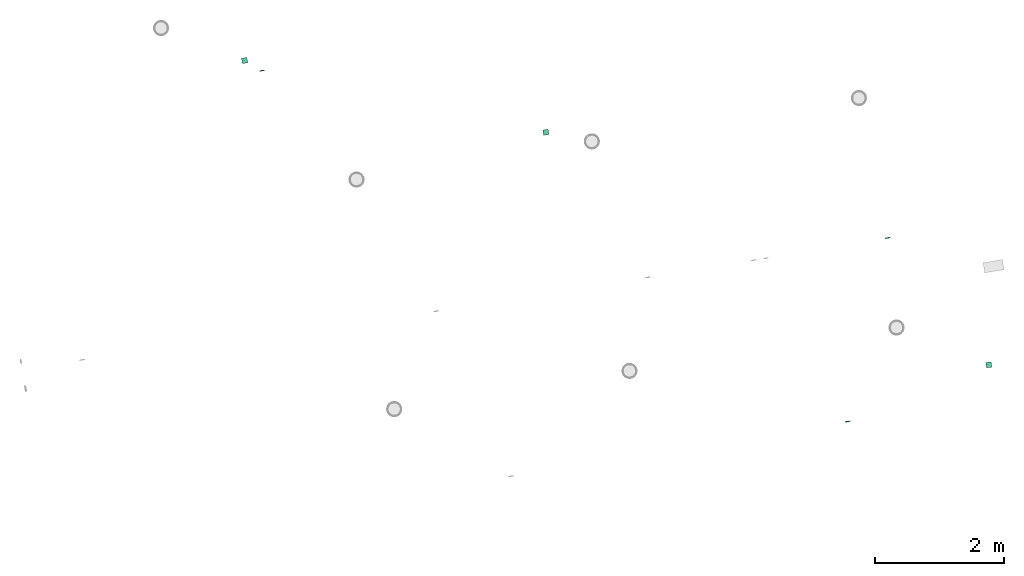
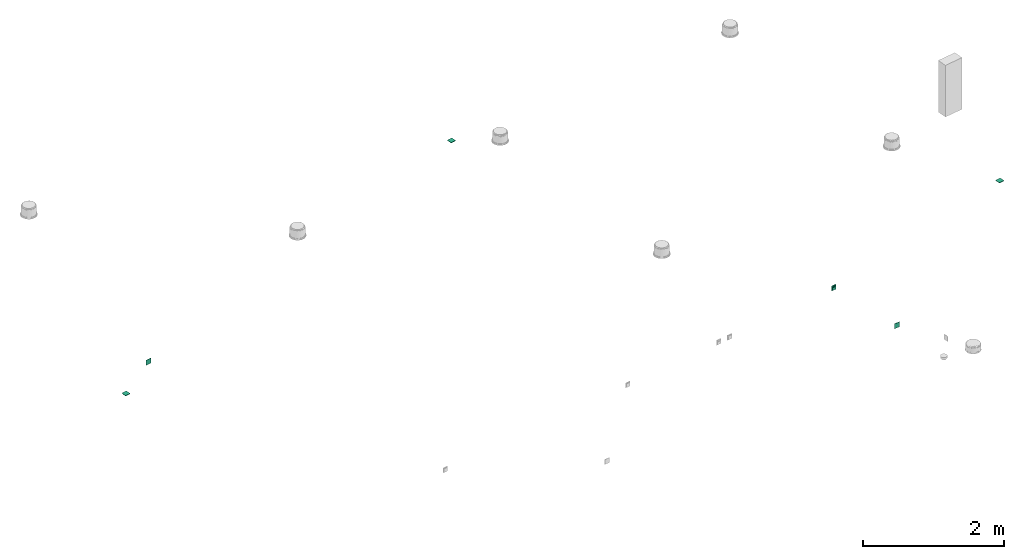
# One storey, part 2 of 4: 6 flow terminals.
"""IFC2X3 building model written with IfcOpenShell, lengths in millimetres."""

from ifc_helpers import new_model, entity, si_unit, converted_unit, derived_unit, direction, frame, frame_2d, origin, origin_with_axes, origin_2d_with_axis, place, context, subcontext, project, spatial, polyline, rectangle, outline, extrude, source, transform, mapped, material, type_object, element, save


model = new_model("IFC2X3")

# Units and contexts
model_context = context("Model", 3, precision=0.01, world=origin(), true_north=direction((6.12323399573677e-17, 1.0)))
plan_context = context("Plan", 3, precision=1e-05, world=origin_with_axes())
body_context = subcontext(model_context, "Body", "Model", "MODEL_VIEW")
ifc_project = project(units=[converted_unit("PLANEANGLEUNIT", "DEGREE", entity("IfcPositiveLengthMeasure", 0.0174532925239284), si_unit("PLANEANGLEUNIT", "RADIAN"), dimensions=[0, 0, 0, 0, 0, 0, 0]), si_unit("AREAUNIT", "SQUARE_METRE"), si_unit("LENGTHUNIT", "METRE", prefix="MILLI"), si_unit("MASSUNIT", "GRAM", prefix="KILO"), si_unit("POWERUNIT", "WATT"), si_unit("PRESSUREUNIT", "PASCAL", prefix="KILO"), si_unit("FORCEUNIT", "NEWTON", prefix="KILO"), si_unit("ELECTRICVOLTAGEUNIT", "VOLT"), si_unit("ELECTRICCURRENTUNIT", "AMPERE"), si_unit("THERMODYNAMICTEMPERATUREUNIT", "DEGREE_CELSIUS"), si_unit("TIMEUNIT", "SECOND"), si_unit("VOLUMEUNIT", "CUBIC_METRE"), derived_unit("LINEARVELOCITYUNIT", [(si_unit("LENGTHUNIT", "METRE"), 1), (si_unit("TIMEUNIT", "SECOND"), -1)]), derived_unit("VOLUMETRICFLOWRATEUNIT", [(si_unit("VOLUMEUNIT", "CUBIC_METRE"), 1), (si_unit("TIMEUNIT", "SECOND"), -1)]), derived_unit("THERMALTRANSMITTANCEUNIT", [(si_unit("POWERUNIT", "WATT"), 1), (si_unit("THERMODYNAMICTEMPERATUREUNIT", "KELVIN"), -1), (si_unit("AREAUNIT", "SQUARE_METRE"), -1)]), derived_unit("SOUNDPRESSUREUNIT", [(si_unit("PRESSUREUNIT", "PASCAL"), 1)])], contexts=[model_context, plan_context])

# Site, building, storey
site_placement = place(None, frame((-743.430438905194, 3176.84670324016, 0.0), z_axis=(0.0, 0.0, 1.0), x_axis=(-0.160236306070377, 0.987078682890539, 0.0)))
site = spatial("IfcSite", under=ifc_project, at=site_placement, Name="Default", CompositionType="ELEMENT")
building_placement = place(site_placement, origin_with_axes())
building = spatial("IfcBuilding", under=site, at=building_placement, CompositionType="ELEMENT")
storey_placement = place(building_placement, frame((0.0, 0.0, 50999.9999999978), z_axis=(0.0, 0.0, 1.0), x_axis=(1.0, 0.0, 0.0)))
storey = spatial("IfcBuildingStorey", under=building, at=storey_placement, Name="Nivå D", CompositionType="ELEMENT", Elevation=50999.9999999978)

# Flow terminals
ifc_material = material(Name="<Unnamed>")
electric_appliance_type_1 = type_object("IfcElectricApplianceType", Name="Tele-Data gen uttak dobbel:Tele-Data gen. uttak dobbel", PredefinedType="NOTDEFINED", material=ifc_material)
shared_shape_1 = source(origin(), body_context, "Body", "SweptSolid", [
    extrude(outline(polyline([(-32.5, -7.07106781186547), (32.5, -7.07106781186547), (42.5, 7.07106781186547), (-42.5, 7.07106781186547), (-32.5, -7.07106781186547)])), frame((0.0, 9.92928932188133, 37.4292893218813), z_axis=(0.0, 0.707106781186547, 0.707106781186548), x_axis=(-1.0, 0.0, 0.0)), (0.0, 0.0, 1.0), 0.200000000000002),
    extrude(outline(polyline([(-32.5, -7.07106781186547), (32.5, -7.07106781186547), (42.5, 7.07106781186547), (-42.5, 7.07106781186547), (-32.5, -7.07106781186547)])), frame((0.0, 10.0707106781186, -37.5707106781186), z_axis=(0.0, -0.707106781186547, 0.707106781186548), x_axis=(-1.0, 0.0, 0.0)), (0.0, 0.0, 1.0), 0.200000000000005),
    extrude(outline(polyline([(-30.3108891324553, -30.6186217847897), (-12.9903810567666, -30.6186217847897), (24.5373864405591, 22.4536559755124), (18.7638837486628, 38.7835875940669), (-30.3108891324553, -30.6186217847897)])), frame((-37.5707106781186, 10.0707106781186, 0.0), z_axis=(0.707106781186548, -0.707106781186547, 0.0), x_axis=(0.577350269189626, 0.577350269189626, 0.577350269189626)), (0.0, 0.0, 1.0), 0.199999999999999),
    extrude(outline(polyline([(-30.3108891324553, -30.6186217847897), (-12.9903810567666, -30.6186217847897), (24.5373864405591, 22.4536559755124), (18.7638837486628, 38.783587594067), (-30.3108891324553, -30.6186217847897)])), frame((37.4292893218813, 9.92928932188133, 0.0), z_axis=(0.707106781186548, 0.707106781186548, 0.0), x_axis=(-0.577350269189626, 0.577350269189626, 0.577350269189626)), (0.0, 0.0, 1.0), 0.199999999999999),
    extrude(rectangle(XDim=0.199999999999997, YDim=4.99999999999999, at=frame_2d((-4.2257863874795e-15, 0.0), x_axis=(1.0, 0.0))), frame((42.5, 2.5, -42.5)), (0.0, 0.0, 1.0), 84.9999999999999),
    extrude(rectangle(XDim=4.99999999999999, YDim=84.9999999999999, at=frame_2d((6.66133814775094e-16, 0.0), x_axis=(1.0, 0.0))), frame((0.0, 2.5, -42.6), z_axis=(0.0, 0.0, 1.0), x_axis=(0.0, -1.0, 0.0)), (0.0, 0.0, 1.0), 0.199999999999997),
    extrude(rectangle(XDim=0.199999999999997, YDim=4.99999999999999, at=frame_2d((-4.2257863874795e-15, 0.0), x_axis=(1.0, 0.0))), frame((-42.5, 2.5, -42.5)), (0.0, 0.0, 1.0), 84.9999999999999),
    extrude(rectangle(XDim=0.2, YDim=84.9999999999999, at=origin_2d_with_axis()), frame((0.0, 0.0, -42.5), z_axis=(0.0, 0.0, 1.0), x_axis=(0.0, 1.0, 0.0)), (0.0, 0.0, 1.0), 84.9999999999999),
    extrude(rectangle(XDim=4.99999999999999, YDim=84.9999999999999, at=frame_2d((6.66133814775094e-16, 0.0), x_axis=(1.0, 0.0))), frame((0.0, 2.5, 42.4), z_axis=(0.0, 0.0, 1.0), x_axis=(0.0, -1.0, 0.0)), (0.0, 0.0, 1.0), 0.199999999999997),
    extrude(rectangle(XDim=0.200000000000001, YDim=64.9999999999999, at=frame_2d((2.11636264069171e-15, 0.0), x_axis=(1.0, 0.0))), frame((0.0, 15.0, -32.5), z_axis=(0.0, 0.0, 1.0), x_axis=(0.0, 1.0, 0.0)), (0.0, 0.0, 1.0), 64.9999999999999),
    extrude(rectangle(XDim=0.199999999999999, YDim=15.0, at=frame_2d((1.06165076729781e-15, 0.0), x_axis=(1.0, 0.0))), frame((-10.0, 17.0099999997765, 0.500000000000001), z_axis=(0.0, 0.0, 1.0), x_axis=(0.0, 1.0, 0.0)), (0.0, 0.0, 1.0), 15.0),
    extrude(rectangle(XDim=0.199999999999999, YDim=15.0, at=frame_2d((1.06165076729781e-15, 0.0), x_axis=(1.0, 0.0))), frame((10.0, 17.0099999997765, 0.500000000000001), z_axis=(0.0, 0.0, 1.0), x_axis=(0.0, 1.0, 0.0)), (0.0, 0.0, 1.0), 15.0),
    extrude(rectangle(XDim=64.9999999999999, YDim=2.0, at=origin_2d_with_axis()), frame((0.0, 16.0, 27.5)), (0.0, 0.0, 1.0), 4.99999999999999),
    extrude(rectangle(XDim=64.9999999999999, YDim=2.0, at=origin_2d_with_axis()), frame((0.0, 16.0, -32.5)), (0.0, 0.0, 1.0), 50.0),
])
for number, where, z_axis, x_axis, name in (
    (1, (771582.619644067, -602832.480498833, 200.0), (0.0, 0.0, 1.0), (0.0, 1.0, 0.0), "Tele-Data gen uttak dobbel:Tele-Data gen. uttak dobbel"),
    (2, (775685.119644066, -593663.896720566, 750.0), (0.0, 0.0, 1.0), (0.0, -1.0, 0.0), "Tele-Data gen uttak dobbel:Tele-Data gen. uttak dobbel"),
    (3, (768852.619644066, -601762.480498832, 1500.0), (0.0, 0.0, 1.0), (0.0, -1.0, 0.0), "Tele-Data gen uttak dobbel:Tele-Data gen. uttak dobbel"),
):
    element("IfcFlowTerminal", number, at=place(storey_placement, frame(where, z_axis=z_axis, x_axis=x_axis)), inside=storey, type_object=electric_appliance_type_1, material=ifc_material, Name=name, ObjectType="Tele-Data gen uttak dobbel:Tele-Data gen. uttak dobbel", context=body_context, shape_type="MappedRepresentation", body=[
        mapped(shared_shape_1, transform((0.0, 0.0, 0.0), scale=1.0)),
    ])
electric_appliance_type_2 = type_object("IfcElectricApplianceType", Name="Tele-Data gen uttak dobbel Tak_U boks:Data_uttak_dobbel Tak_U boks", PredefinedType="NOTDEFINED", material=ifc_material)
shared_shape_2 = source(origin(), body_context, "Body", "SweptSolid", [
    extrude(outline(polyline([(-32.5, -7.07106781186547), (32.5, -7.07106781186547), (42.5, 7.07106781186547), (-42.5, 7.07106781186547), (-32.5, -7.07106781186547)])), frame((0.0, 37.3397713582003, -9.99008829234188), z_axis=(0.0, 0.707846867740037, -0.706365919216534), x_axis=(-1.0, 0.0, 0.0)), (0.0, 0.0, 1.0), 0.200000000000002),
    extrude(outline(polyline([(-32.5, -7.07106781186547), (32.5, -7.07106781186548), (42.5, 7.07106781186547), (-42.5, 7.07106781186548), (-32.5, -7.07106781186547)])), frame((0.0, -37.6600394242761, -10.2100487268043), z_axis=(0.0, 0.706365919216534, 0.707846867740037), x_axis=(-1.0, 0.0, 0.0)), (0.0, 0.0, 1.0), 0.199999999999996),
    extrude(outline(polyline([(-30.3108891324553, -30.6186217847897), (-12.9903810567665, -30.6186217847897), (24.537386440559, 22.4536559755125), (18.7638837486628, 38.783587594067), (-30.3108891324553, -30.6186217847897)])), frame((-37.5707106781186, -0.0893493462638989, -10.1707051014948), z_axis=(0.707106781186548, -0.000740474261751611, 0.707106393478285), x_axis=(0.577350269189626, 0.57795454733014, -0.576745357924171)), (0.0, 0.0, 1.0), 0.199999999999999),
    extrude(outline(polyline([(-42.5, -7.07106781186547), (42.5, -7.07106781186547), (32.5, 7.07106781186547), (-32.5, 7.07106781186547), (-42.5, -7.07106781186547)])), frame((37.5707106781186, -0.089349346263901, -10.1707051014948), z_axis=(-0.707106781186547, -0.000740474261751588, 0.707106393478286), x_axis=(0.0, 0.999999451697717, 0.0010471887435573)), (0.0, 0.0, 1.0), 0.200000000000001),
    extrude(rectangle(XDim=84.9999999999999, YDim=0.199999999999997, at=frame_2d((4.2257863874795e-15, 0.0), x_axis=(0.0, 1.0))), frame((42.5, -0.0946593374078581, -5.09999720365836), z_axis=(0.0, -0.0010471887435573, 0.999999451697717), x_axis=(1.0, 0.0, 0.0)), (0.0, 0.0, 1.0), 4.99999999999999),
    extrude(rectangle(XDim=0.199999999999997, YDim=84.9999999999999, at=origin_2d_with_axis()), frame((0.0, -42.5946360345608, -5.14450272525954), z_axis=(0.0, -0.00104718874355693, 0.999999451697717), x_axis=(0.0, 0.999999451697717, 0.00104718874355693)), (0.0, 0.0, 1.0), 5.0),
    extrude(rectangle(XDim=84.9999999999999, YDim=0.199999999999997, at=frame_2d((4.2257863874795e-15, 0.0), x_axis=(0.0, 1.0))), frame((-42.5, -0.0946593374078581, -5.09999720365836), z_axis=(0.0, -0.0010471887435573, 0.999999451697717), x_axis=(1.0, 0.0, 0.0)), (0.0, 0.0, 1.0), 4.99999999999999),
    extrude(rectangle(XDim=84.9999999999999, YDim=84.9999999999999, at=origin_2d_with_axis()), frame((0.0, -0.0997905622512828, -0.199999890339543), z_axis=(0.0, -0.0010471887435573, 0.999999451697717), x_axis=(0.0, 0.999999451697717, 0.0010471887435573)), (0.0, 0.0, 1.0), 0.2),
    extrude(rectangle(XDim=0.199999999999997, YDim=84.9999999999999, at=origin_2d_with_axis()), frame((0.0, 42.4053173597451, -5.05549168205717), z_axis=(0.0, -0.00104718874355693, 0.999999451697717), x_axis=(0.0, 0.999999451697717, 0.00104718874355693)), (0.0, 0.0, 1.0), 4.99999999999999),
    extrude(rectangle(XDim=65.0, YDim=64.9999999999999, at=frame_2d((-7.105427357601e-15, -3.5527136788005e-15), x_axis=(1.0, 0.0))), frame((0.0, -0.0840827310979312, -15.1999916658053), z_axis=(0.0, -0.00104718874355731, 0.999999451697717), x_axis=(0.0, 0.999999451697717, 0.00104718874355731)), (0.0, 0.0, 1.0), 0.200000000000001),
    extrude(rectangle(XDim=15.0, YDim=15.0, at=origin_2d_with_axis()), frame((-10.0, 7.91801773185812, -17.2016130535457), z_axis=(0.0, -0.00104718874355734, 0.999999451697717), x_axis=(0.0, 0.999999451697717, 0.00104718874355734)), (0.0, 0.0, 1.0), 0.200000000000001),
    extrude(rectangle(XDim=15.0, YDim=15.0, at=origin_2d_with_axis()), frame((10.0, 7.91801773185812, -17.2016130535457), z_axis=(0.0, -0.00104718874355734, 0.999999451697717), x_axis=(0.0, 0.999999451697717, 0.00104718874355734)), (0.0, 0.0, 1.0), 0.200000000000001),
    extrude(rectangle(XDim=4.99999999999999, YDim=65.0, at=frame_2d((2.22044604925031e-15, 0.0), x_axis=(1.0, 0.0))), frame((0.0, 29.9178904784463, -17.0685749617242), z_axis=(0.0, -0.00104718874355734, 0.999999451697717), x_axis=(0.0, -0.999999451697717, -0.00104718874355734)), (0.0, 0.0, 1.0), 2.0),
    extrude(rectangle(XDim=50.0, YDim=65.0, at=origin_2d_with_axis()), frame((0.0, -7.58208896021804, -17.1078445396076), z_axis=(0.0, -0.0010471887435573, 0.999999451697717), x_axis=(0.0, -0.999999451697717, -0.0010471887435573)), (0.0, 0.0, 1.0), 2.0),
])
flow_terminal_1_placement = place(storey_placement, frame((774042.955881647, -597859.158393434, 3610.0000000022), z_axis=(0.0, 0.0, 1.0), x_axis=(0.0, 1.0, 0.0)))
element("IfcFlowTerminal", 4, at=flow_terminal_1_placement, inside=storey, type_object=electric_appliance_type_2, material=ifc_material, Name="Tele-Data gen uttak dobbel Tak_U boks:Data_uttak_dobbel Tak_U boks", ObjectType="Tele-Data gen uttak dobbel Tak_U boks:Data_uttak_dobbel Tak_U boks", context=body_context, shape_type="MappedRepresentation", body=[
    mapped(shared_shape_2, transform((0.0, 0.0, 0.0), scale=1.0)),
])
electric_appliance_type_3 = type_object("IfcElectricApplianceType", Name="Tele-Data gen uttak dobbel Tak_U boks:Data_uttak_dobbel Tak_U boks_for WiFi", PredefinedType="NOTDEFINED", material=ifc_material)
flow_terminal_2_placement = place(storey_placement, frame((769377.619644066, -604067.480498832, 2700.0), z_axis=(0.0, 0.0, 1.0), x_axis=(1.0, 0.0, 0.0)))
element("IfcFlowTerminal", 5, at=flow_terminal_2_placement, inside=storey, type_object=electric_appliance_type_3, material=ifc_material, Name="Tele-Data gen uttak dobbel Tak_U boks:Data_uttak_dobbel Tak_U boks_for WiFi", ObjectType="Tele-Data gen uttak dobbel Tak_U boks:Data_uttak_dobbel Tak_U boks_for WiFi", context=body_context, shape_type="MappedRepresentation", body=[
    mapped(shared_shape_2, transform((0.0, 0.0, 0.0), scale=1.0)),
])
flow_terminal_3_placement = place(storey_placement, frame((775892.181209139, -593422.480498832, 200.0), z_axis=(0.0, 0.0, 1.0), x_axis=(0.0, -1.0, 0.0)))
element("IfcFlowTerminal", 6, at=flow_terminal_3_placement, inside=storey, type_object=electric_appliance_type_2, material=ifc_material, Name="Tele-Data gen uttak dobbel Tak_U boks:Data_uttak_dobbel Tak_U boks", ObjectType="Tele-Data gen uttak dobbel Tak_U boks:Data_uttak_dobbel Tak_U boks", context=body_context, shape_type="MappedRepresentation", body=[
    mapped(shared_shape_2, transform((0.0, 0.0, 0.0), scale=1.0)),
])

save(model, "model.ifc")
